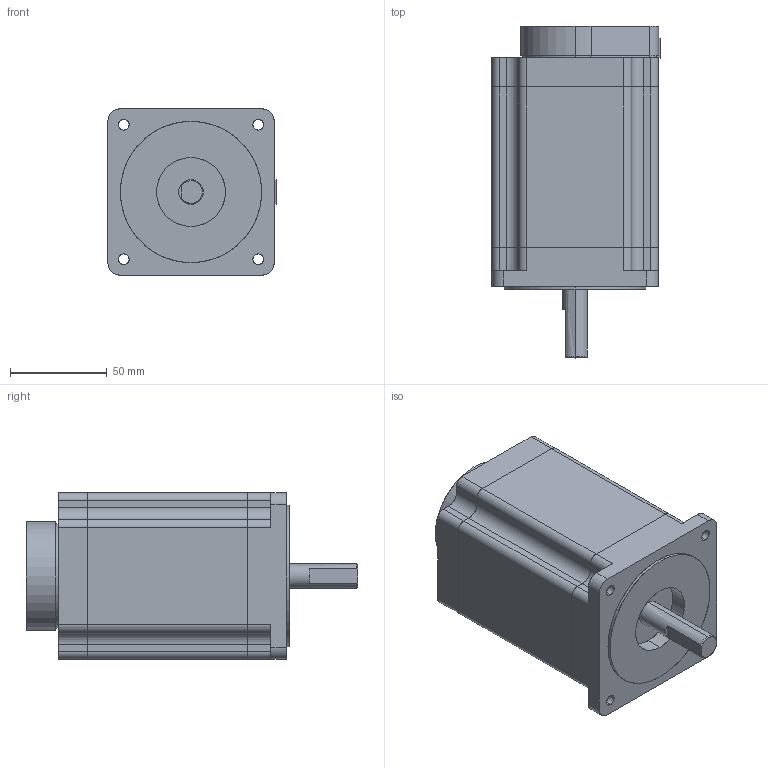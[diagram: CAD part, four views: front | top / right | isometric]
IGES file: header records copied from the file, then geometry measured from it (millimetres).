
Start section: SolidWorks IGES file using analytic representation for surfaces
Global section: file name: C:\Users\Christine\Documents\Arcus\Project #21\STM-34-3-1-E100\STM-34-3-1-E100.IGS; native system: SolidWorks 2008; preprocessor: SolidWorks 2008; author: Christine; date: 131106.221853; units: millimetre
Bounding box: 86.87 x 171.51 x 85.85 mm (x, y, z)
Surface area: 98175.1 mm2 (no closed solid volume)
Topology: 0 solids, 0 shells, 216 faces, 3495 edges, 3483 vertices
Faces by surface type: revolution 123, bspline 93
